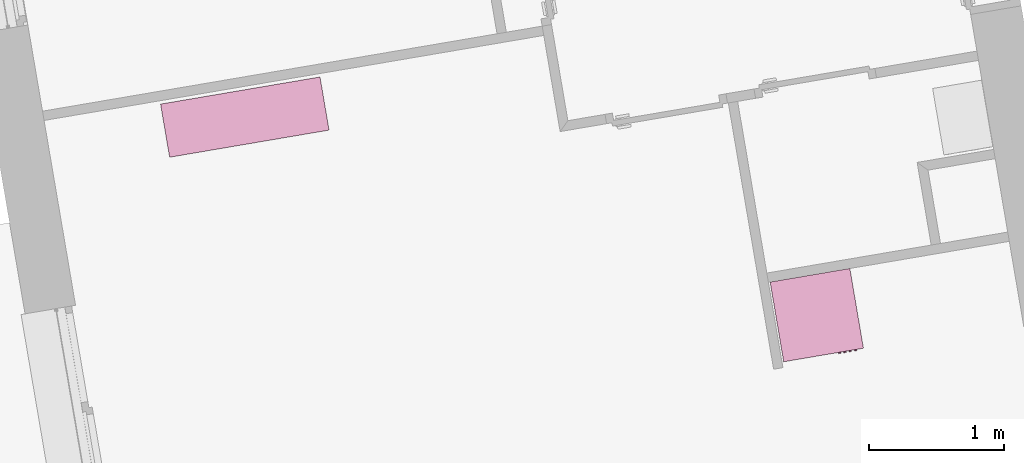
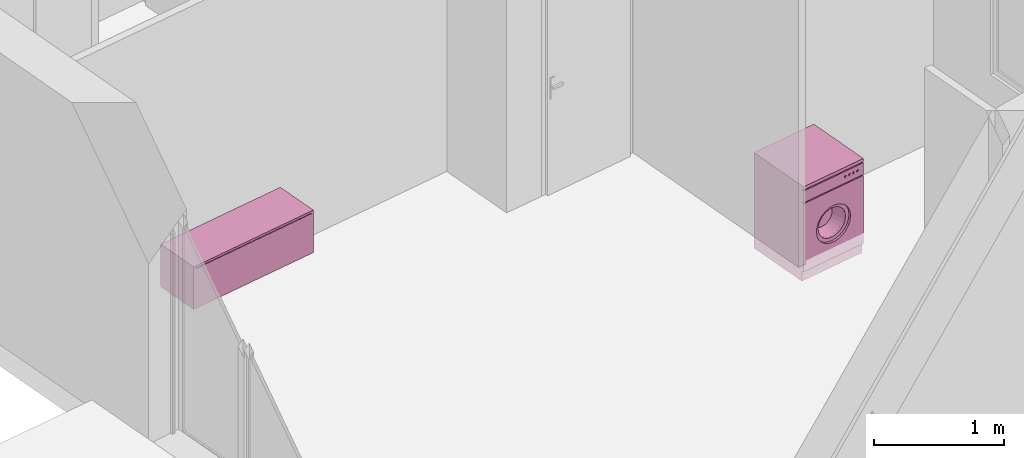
# One storey, part 164 of 195: 2 furnishings.
"""IFC2X3 building model written with IfcOpenShell, lengths in metres."""

from ifc_helpers import new_model, entity, si_unit, converted_unit, derived_unit, money_unit, direction, frame, origin_with_axes, place, context, subcontext, project, spatial, open_shell, faceted_brep, surface_model, source, transform, mapped, type_object, element, save


model = new_model("IFC2X3")

# Units and contexts
model_context = context("Model", 3, precision=1e-05, world=origin_with_axes(), true_north=direction((0.0, 1.0)))
body_context = subcontext(model_context, "Body", "Model", "MODEL_VIEW")
ifc_project = project(units=[si_unit("LENGTHUNIT", "METRE"), si_unit("AREAUNIT", "SQUARE_METRE"), si_unit("VOLUMEUNIT", "CUBIC_METRE"), converted_unit("PLANEANGLEUNIT", "DEGREE", entity("IfcPlaneAngleMeasure", 0.0174532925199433), si_unit("PLANEANGLEUNIT", "RADIAN"), dimensions=[0, 0, 0, 0, 0, 0, 0]), money_unit("CHF"), converted_unit("TIMEUNIT", "Year", entity("IfcTimeMeasure", 31557600.0), si_unit("TIMEUNIT", "SECOND"), dimensions=[0, 0, 1, 0, 0, 0, 0]), si_unit("MASSUNIT", "GRAM", prefix="KILO"), si_unit("THERMODYNAMICTEMPERATUREUNIT", "DEGREE_CELSIUS"), si_unit("LUMINOUSINTENSITYUNIT", "LUMEN"), si_unit("ENERGYUNIT", "JOULE", prefix="MEGA"), derived_unit("THERMALCONDUCTANCEUNIT", [(si_unit("POWERUNIT", "WATT"), 1), (si_unit("LENGTHUNIT", "METRE"), -1), (si_unit("THERMODYNAMICTEMPERATUREUNIT", "KELVIN"), -1)]), derived_unit("SPECIFICHEATCAPACITYUNIT", [(si_unit("ENERGYUNIT", "JOULE"), 1), (si_unit("MASSUNIT", "GRAM", prefix="KILO"), -1), (si_unit("THERMODYNAMICTEMPERATUREUNIT", "KELVIN"), -1)]), derived_unit("MASSDENSITYUNIT", [(si_unit("MASSUNIT", "GRAM", prefix="KILO"), 1), (si_unit("VOLUMEUNIT", "CUBIC_METRE"), -1)])], contexts=[model_context])

# Site, building, storey
site_placement = place(None, origin_with_axes())
site = spatial("IfcSite", under=ifc_project, at=site_placement, Name="Site", CompositionType="ELEMENT")
building_placement = place(site_placement, origin_with_axes())
building = spatial("IfcBuilding", under=site, at=building_placement, Name="Bâtiment", CompositionType="ELEMENT")
storey_placement = place(building_placement, origin_with_axes())
storey = spatial("IfcBuildingStorey", under=building, at=storey_placement, Name="rdc", CompositionType="ELEMENT", Elevation=0.0)

# Furnishings
furnishing_element_type_1 = type_object("IfcFurnishingElementType", Name="Meuble à plans 27")
shared_shape_1 = source(origin_with_axes(), body_context, "Body", "SurfaceModel", [
    surface_model("IfcShellBasedSurfaceModel", [(-1.18, 0.02, 0.0), (-1.18, 0.4, 0.0), (-0.02, 0.4, 0.0), (-0.02, 0.02, 0.0)], [open_shell([[[0, 1, 2, 3]]])]),
    faceted_brep([(0.0, 0.4, 0.0), (0.0, 0.0, 0.0), (-1.2, 0.0, 0.0), (-1.2, 0.4, 0.0), (0.0, 0.4, 0.4), (0.0, 0.0, 0.4), (-1.2, 0.0, 0.4), (-0.02, 0.0, 0.02), (-1.18, 0.0, 0.02), (-1.18, 0.0, 0.38), (-0.02, 0.0, 0.38), (-1.2, 0.4, 0.4), (-0.02, 0.4, 0.01999999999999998), (-0.02, 0.4, 0.38), (-1.18, 0.4, 0.38), (-1.18, 0.4, 0.01999999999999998)], [[[0, 1, 2, 3]], [[4, 5, 1, 0]], [[1, 5, 6, 2], [7, 8, 9, 10]], [[3, 2, 6, 11]], [[0, 3, 11, 4], [12, 13, 14, 15]], [[11, 6, 5, 4]], [[15, 8, 7, 12]], [[14, 9, 8, 15]], [[13, 10, 9, 14]], [[12, 7, 10, 13]]]),
    faceted_brep([(-1.18, 0.4, 0.01999999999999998), (-1.18, 0.4, 0.38), (-0.02, 0.4, 0.38), (-0.02, 0.4, 0.01999999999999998), (-1.18, 0.38, 0.01999999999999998), (-1.18, 0.3800000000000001, 0.38), (-0.02, 0.3800000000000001, 0.38), (-0.02, 0.38, 0.01999999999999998)], [[[0, 1, 2, 3]], [[0, 4, 5, 1]], [[1, 5, 6, 2]], [[2, 6, 7, 3]], [[3, 7, 4, 0]], [[7, 6, 5, 4]]]),
    faceted_brep([(-1.18, 0.0, 0.02), (-1.18, 0.38, 0.02), (-0.02, 0.38, 0.02), (-0.02, 0.0, 0.02), (-1.18, 0.0, 0.3750000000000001), (-1.18, 0.38, 0.3750000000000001), (-0.02, 0.38, 0.3750000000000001), (-0.02, 0.0, 0.3750000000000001)], [[[0, 1, 2, 3]], [[0, 4, 5, 1]], [[1, 5, 6, 2]], [[2, 6, 7, 3]], [[3, 7, 4, 0]], [[7, 6, 5, 4]]]),
])
furnishing_1_placement = place(storey_placement, frame((9583.496544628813, -1029.957044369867, 57.92018680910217), z_axis=(0.0, 0.0, 1.0), x_axis=(0.9858290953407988, 0.1677527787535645, 0.0)))
element("IfcFurnishingElement", 1, at=furnishing_1_placement, inside=storey, type_object=furnishing_element_type_1, Name="Obj.-376", context=body_context, shape_type="MappedRepresentation", body=[
    mapped(shared_shape_1, transform((0.0, 0.0, 0.0))),
])
furnishing_element_type_2 = type_object("IfcFurnishingElementType", Name="Machine à laver")
shared_shape_2 = source(origin_with_axes(), body_context, "Body", "SurfaceModel", [
    faceted_brep([(0.0, 0.02, 0.1), (0.0, 0.0, 0.1), (-0.6, 0.0, 0.1), (-0.6, 0.02, 0.1), (0.0, 0.02000000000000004, 0.74), (0.0, 0.0, 0.74), (-0.6, 0.0, 0.74), (-0.4714285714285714, 0.0, 0.42), (-0.4655872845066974, 0.0, 0.4643689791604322), (-0.448461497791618, 0.0, 0.5057142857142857), (-0.4212183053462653, 0.0, 0.5412183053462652), (-0.3857142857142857, 0.0, 0.568461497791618), (-0.3443689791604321, 0.0, 0.5855872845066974), (-0.3, 0.0, 0.5914285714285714), (-0.2556310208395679, 0.0, 0.5855872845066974), (-0.2142857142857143, 0.0, 0.5684614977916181), (-0.1787816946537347, 0.0, 0.5412183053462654), (-0.1515385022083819, 0.0, 0.5057142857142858), (-0.1344127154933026, 0.0, 0.4643689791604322), (-0.1285714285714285, 0.0, 0.42), (-0.1344127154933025, 0.0, 0.3756310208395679), (-0.1515385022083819, 0.0, 0.3342857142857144), (-0.1787816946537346, 0.0, 0.2987816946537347), (-0.2142857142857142, 0.0, 0.2715385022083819), (-0.2556310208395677, 0.0, 0.2544127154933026), (-0.2999999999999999, 0.0, 0.2485714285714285), (-0.344368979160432, 0.0, 0.2544127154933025), (-0.3857142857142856, 0.0, 0.2715385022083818), (-0.4212183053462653, 0.0, 0.2987816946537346), (-0.448461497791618, 0.0, 0.3342857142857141), (-0.4655872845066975, 0.0, 0.3756310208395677), (-0.6, 0.02000000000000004, 0.74), (-0.4714285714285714, 0.02000000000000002, 0.42), (-0.4655872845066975, 0.02000000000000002, 0.3756310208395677), (-0.448461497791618, 0.02000000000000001, 0.3342857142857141), (-0.4212183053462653, 0.02000000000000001, 0.2987816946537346), (-0.3857142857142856, 0.02000000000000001, 0.2715385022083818), (-0.344368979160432, 0.02000000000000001, 0.2544127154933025), (-0.2999999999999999, 0.02000000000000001, 0.2485714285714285), (-0.2556310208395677, 0.02000000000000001, 0.2544127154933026), (-0.2142857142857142, 0.02000000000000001, 0.2715385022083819), (-0.1787816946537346, 0.02000000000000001, 0.2987816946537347), (-0.1515385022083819, 0.02000000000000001, 0.3342857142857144), (-0.1344127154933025, 0.02000000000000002, 0.3756310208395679), (-0.1285714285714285, 0.02000000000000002, 0.42), (-0.1344127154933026, 0.02000000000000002, 0.4643689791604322), (-0.1515385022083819, 0.02000000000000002, 0.5057142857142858), (-0.1787816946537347, 0.02000000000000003, 0.5412183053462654), (-0.2142857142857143, 0.02000000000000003, 0.5684614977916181), (-0.2556310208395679, 0.02000000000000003, 0.5855872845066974), (-0.3, 0.02000000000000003, 0.5914285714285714), (-0.3443689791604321, 0.02000000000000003, 0.5855872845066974), (-0.3857142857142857, 0.02000000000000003, 0.568461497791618), (-0.4212183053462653, 0.02000000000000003, 0.5412183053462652), (-0.448461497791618, 0.02000000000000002, 0.5057142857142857), (-0.4655872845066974, 0.02000000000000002, 0.4643689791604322)], [[[0, 1, 2, 3]], [[4, 5, 1, 0]], [[1, 5, 6, 2], [7, 8, 9, 10, 11, 12, 13, 14, 15, 16, 17, 18, 19, 20, 21, 22, 23, 24, 25, 26, 27, 28, 29, 30]], [[3, 2, 6, 31]], [[0, 3, 31, 4], [32, 33, 34, 35, 36, 37, 38, 39, 40, 41, 42, 43, 44, 45, 46, 47, 48, 49, 50, 51, 52, 53, 54, 55]], [[31, 6, 5, 4]], [[55, 8, 7, 32]], [[54, 9, 8, 55]], [[53, 10, 9, 54]], [[52, 11, 10, 53]], [[51, 12, 11, 52]], [[50, 13, 12, 51]], [[49, 14, 13, 50]], [[48, 15, 14, 49]], [[47, 16, 15, 48]], [[46, 17, 16, 47]], [[45, 18, 17, 46]], [[44, 19, 18, 45]], [[43, 20, 19, 44]], [[42, 21, 20, 43]], [[41, 22, 21, 42]], [[40, 23, 22, 41]], [[39, 24, 23, 40]], [[38, 25, 24, 39]], [[37, 26, 25, 38]], [[36, 27, 26, 37]], [[35, 28, 27, 36]], [[34, 29, 28, 35]], [[33, 30, 29, 34]], [[32, 7, 30, 33]]]),
    faceted_brep([(-0.4714285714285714, 0.04000000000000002, 0.42), (-0.4714285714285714, 0.02000000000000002, 0.42), (-0.4655872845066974, 0.02000000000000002, 0.4643689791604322), (-0.4655872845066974, 0.04000000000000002, 0.4643689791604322), (-0.4655872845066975, 0.04000000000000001, 0.3756310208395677), (-0.4655872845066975, 0.02000000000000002, 0.3756310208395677), (-0.448461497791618, 0.02000000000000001, 0.3342857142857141), (-0.4212183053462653, 0.02000000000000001, 0.2987816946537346), (-0.3857142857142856, 0.02000000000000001, 0.2715385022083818), (-0.344368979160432, 0.02000000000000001, 0.2544127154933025), (-0.2999999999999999, 0.02000000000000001, 0.2485714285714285), (-0.2556310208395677, 0.02000000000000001, 0.2544127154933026), (-0.2142857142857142, 0.02000000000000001, 0.2715385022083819), (-0.1787816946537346, 0.02000000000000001, 0.2987816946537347), (-0.1515385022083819, 0.02000000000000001, 0.3342857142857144), (-0.1344127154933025, 0.02000000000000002, 0.3756310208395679), (-0.1285714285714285, 0.02000000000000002, 0.42), (-0.1344127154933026, 0.02000000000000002, 0.4643689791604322), (-0.1515385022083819, 0.02000000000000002, 0.5057142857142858), (-0.1787816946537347, 0.02000000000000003, 0.5412183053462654), (-0.2142857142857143, 0.02000000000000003, 0.5684614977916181), (-0.2556310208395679, 0.02000000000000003, 0.5855872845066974), (-0.3, 0.02000000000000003, 0.5914285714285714), (-0.3443689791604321, 0.02000000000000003, 0.5855872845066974), (-0.3857142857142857, 0.02000000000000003, 0.568461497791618), (-0.4212183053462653, 0.02000000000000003, 0.5412183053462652), (-0.448461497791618, 0.02000000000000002, 0.5057142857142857), (-0.4371428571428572, 0.02000000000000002, 0.42), (-0.432469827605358, 0.02000000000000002, 0.4554951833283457), (-0.4187691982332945, 0.02000000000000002, 0.4885714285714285), (-0.3969746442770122, 0.02000000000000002, 0.5169746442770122), (-0.3685714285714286, 0.02000000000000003, 0.5387691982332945), (-0.3354951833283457, 0.02000000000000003, 0.552469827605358), (-0.3, 0.02000000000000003, 0.5571428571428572), (-0.2645048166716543, 0.02000000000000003, 0.552469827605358), (-0.2314285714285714, 0.02000000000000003, 0.5387691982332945), (-0.2030253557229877, 0.02000000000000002, 0.5169746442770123), (-0.1812308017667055, 0.02000000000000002, 0.4885714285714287), (-0.167530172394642, 0.02000000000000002, 0.4554951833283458), (-0.1628571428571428, 0.02000000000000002, 0.42), (-0.167530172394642, 0.02000000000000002, 0.3845048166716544), (-0.1812308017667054, 0.02000000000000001, 0.3514285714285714), (-0.2030253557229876, 0.02000000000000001, 0.3230253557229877), (-0.2314285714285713, 0.02000000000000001, 0.3012308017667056), (-0.2645048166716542, 0.02000000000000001, 0.287530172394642), (-0.2999999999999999, 0.02000000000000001, 0.2828571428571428), (-0.3354951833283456, 0.02000000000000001, 0.287530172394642), (-0.3685714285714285, 0.02000000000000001, 0.3012308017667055), (-0.3969746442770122, 0.02000000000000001, 0.3230253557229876), (-0.4187691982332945, 0.02000000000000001, 0.3514285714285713), (-0.432469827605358, 0.02000000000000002, 0.3845048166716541), (-0.448461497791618, 0.04000000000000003, 0.5057142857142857), (-0.4212183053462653, 0.04000000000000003, 0.5412183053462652), (-0.3857142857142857, 0.04000000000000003, 0.568461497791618), (-0.3443689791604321, 0.04000000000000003, 0.5855872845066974), (-0.3, 0.04000000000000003, 0.5914285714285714), (-0.2556310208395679, 0.04000000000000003, 0.5855872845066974), (-0.2142857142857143, 0.04000000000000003, 0.5684614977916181), (-0.1787816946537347, 0.04000000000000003, 0.5412183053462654), (-0.1515385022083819, 0.04000000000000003, 0.5057142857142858), (-0.1344127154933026, 0.04000000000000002, 0.4643689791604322), (-0.1285714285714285, 0.04000000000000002, 0.42), (-0.1344127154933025, 0.04000000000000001, 0.3756310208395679), (-0.1515385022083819, 0.04000000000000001, 0.3342857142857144), (-0.1787816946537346, 0.04000000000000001, 0.2987816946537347), (-0.2142857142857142, 0.04000000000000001, 0.2715385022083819), (-0.2556310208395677, 0.04000000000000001, 0.2544127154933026), (-0.2999999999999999, 0.04000000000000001, 0.2485714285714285), (-0.344368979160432, 0.04000000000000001, 0.2544127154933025), (-0.3857142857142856, 0.04000000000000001, 0.2715385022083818), (-0.4212183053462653, 0.04000000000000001, 0.2987816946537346), (-0.448461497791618, 0.04000000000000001, 0.3342857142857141), (-0.4371428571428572, 0.04000000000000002, 0.42), (-0.432469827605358, 0.04000000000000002, 0.3845048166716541), (-0.4187691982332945, 0.04000000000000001, 0.3514285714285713), (-0.3969746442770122, 0.04000000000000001, 0.3230253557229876), (-0.3685714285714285, 0.04000000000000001, 0.3012308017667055), (-0.3354951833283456, 0.04000000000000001, 0.287530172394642), (-0.2999999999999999, 0.04000000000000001, 0.2828571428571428), (-0.2645048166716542, 0.04000000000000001, 0.287530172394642), (-0.2314285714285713, 0.04000000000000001, 0.3012308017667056), (-0.2030253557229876, 0.04000000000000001, 0.3230253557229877), (-0.1812308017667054, 0.04000000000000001, 0.3514285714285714), (-0.167530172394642, 0.04000000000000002, 0.3845048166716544), (-0.1628571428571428, 0.04000000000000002, 0.42), (-0.167530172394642, 0.04000000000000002, 0.4554951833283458), (-0.1812308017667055, 0.04000000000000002, 0.4885714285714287), (-0.2030253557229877, 0.04000000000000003, 0.5169746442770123), (-0.2314285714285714, 0.04000000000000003, 0.5387691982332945), (-0.2645048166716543, 0.04000000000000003, 0.552469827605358), (-0.3, 0.04000000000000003, 0.5571428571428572), (-0.3354951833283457, 0.04000000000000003, 0.552469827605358), (-0.3685714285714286, 0.04000000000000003, 0.5387691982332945), (-0.3969746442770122, 0.04000000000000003, 0.5169746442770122), (-0.4187691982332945, 0.04000000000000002, 0.4885714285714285), (-0.432469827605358, 0.04000000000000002, 0.4554951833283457)], [[[0, 1, 2, 3]], [[4, 5, 1, 0]], [[1, 5, 6, 7, 8, 9, 10, 11, 12, 13, 14, 15, 16, 17, 18, 19, 20, 21, 22, 23, 24, 25, 26, 2], [27, 28, 29, 30, 31, 32, 33, 34, 35, 36, 37, 38, 39, 40, 41, 42, 43, 44, 45, 46, 47, 48, 49, 50]], [[3, 2, 26, 51]], [[0, 3, 51, 52, 53, 54, 55, 56, 57, 58, 59, 60, 61, 62, 63, 64, 65, 66, 67, 68, 69, 70, 71, 4], [72, 73, 74, 75, 76, 77, 78, 79, 80, 81, 82, 83, 84, 85, 86, 87, 88, 89, 90, 91, 92, 93, 94, 95]], [[71, 6, 5, 4]], [[70, 7, 6, 71]], [[69, 8, 7, 70]], [[68, 9, 8, 69]], [[67, 10, 9, 68]], [[66, 11, 10, 67]], [[65, 12, 11, 66]], [[64, 13, 12, 65]], [[63, 14, 13, 64]], [[62, 15, 14, 63]], [[61, 16, 15, 62]], [[60, 17, 16, 61]], [[59, 18, 17, 60]], [[58, 19, 18, 59]], [[57, 20, 19, 58]], [[56, 21, 20, 57]], [[55, 22, 21, 56]], [[54, 23, 22, 55]], [[53, 24, 23, 54]], [[52, 25, 24, 53]], [[51, 26, 25, 52]], [[95, 28, 27, 72]], [[94, 29, 28, 95]], [[93, 30, 29, 94]], [[92, 31, 30, 93]], [[91, 32, 31, 92]], [[90, 33, 32, 91]], [[89, 34, 33, 90]], [[88, 35, 34, 89]], [[87, 36, 35, 88]], [[86, 37, 36, 87]], [[85, 38, 37, 86]], [[84, 39, 38, 85]], [[83, 40, 39, 84]], [[82, 41, 40, 83]], [[81, 42, 41, 82]], [[80, 43, 42, 81]], [[79, 44, 43, 80]], [[78, 45, 44, 79]], [[77, 46, 45, 78]], [[76, 47, 46, 77]], [[75, 48, 47, 76]], [[74, 49, 48, 75]], [[73, 50, 49, 74]], [[72, 27, 50, 73]]]),
    surface_model("IfcShellBasedSurfaceModel", [(-0.2645048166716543, 0.03999999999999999, 0.552469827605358), (-0.2733786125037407, 0.14, 0.5193523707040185), (-0.3, 0.14, 0.5228571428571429), (-0.3, 0.03999999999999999, 0.5571428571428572), (-0.2314285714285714, 0.03999999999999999, 0.5387691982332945), (-0.2485714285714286, 0.14, 0.5090768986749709), (-0.2272690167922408, 0.14, 0.4927309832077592), (-0.2109231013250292, 0.14, 0.4714285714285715), (-0.2006476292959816, 0.14, 0.4466213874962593), (-0.1971428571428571, 0.14, 0.4200000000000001), (-0.2006476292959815, 0.14, 0.3933786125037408), (-0.2109231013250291, 0.14, 0.3685714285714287), (-0.2272690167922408, 0.14, 0.3472690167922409), (-0.2485714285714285, 0.14, 0.3309231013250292), (-0.2733786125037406, 0.14, 0.3206476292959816), (-0.2999999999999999, 0.14, 0.3171428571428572), (-0.3266213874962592, 0.14, 0.3206476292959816), (-0.3514285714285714, 0.14, 0.3309231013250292), (-0.3727309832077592, 0.14, 0.3472690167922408), (-0.3890768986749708, 0.14, 0.3685714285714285), (-0.3993523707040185, 0.14, 0.3933786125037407), (-0.4028571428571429, 0.14, 0.42), (-0.3993523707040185, 0.14, 0.4466213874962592), (-0.3890768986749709, 0.14, 0.4714285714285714), (-0.3727309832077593, 0.14, 0.4927309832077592), (-0.3514285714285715, 0.14, 0.5090768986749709), (-0.3266213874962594, 0.14, 0.5193523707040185), (-0.3354951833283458, 0.03999999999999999, 0.552469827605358), (-0.2030253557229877, 0.03999999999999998, 0.5169746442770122), (-0.1812308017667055, 0.03999999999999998, 0.4885714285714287), (-0.167530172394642, 0.03999999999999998, 0.4554951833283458), (-0.1628571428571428, 0.03999999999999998, 0.4200000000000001), (-0.167530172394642, 0.03999999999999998, 0.3845048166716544), (-0.1812308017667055, 0.03999999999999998, 0.3514285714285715), (-0.2030253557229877, 0.03999999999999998, 0.3230253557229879), (-0.2314285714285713, 0.03999999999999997, 0.3012308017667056), (-0.2645048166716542, 0.03999999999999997, 0.2875301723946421), (-0.2999999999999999, 0.03999999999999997, 0.2828571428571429), (-0.3354951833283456, 0.03999999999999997, 0.2875301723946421), (-0.3685714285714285, 0.03999999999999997, 0.3012308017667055), (-0.3969746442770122, 0.03999999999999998, 0.3230253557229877), (-0.4187691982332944, 0.03999999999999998, 0.3514285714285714), (-0.432469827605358, 0.03999999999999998, 0.3845048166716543), (-0.4371428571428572, 0.03999999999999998, 0.4199999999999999), (-0.432469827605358, 0.03999999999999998, 0.4554951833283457), (-0.4187691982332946, 0.03999999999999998, 0.4885714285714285), (-0.3969746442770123, 0.03999999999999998, 0.5169746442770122), (-0.3685714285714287, 0.03999999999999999, 0.5387691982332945)], [open_shell([[[0, 1, 2, 3]], [[4, 5, 1, 0]], [[2, 1, 5, 6, 7, 8, 9, 10, 11, 12, 13, 14, 15, 16, 17, 18, 19, 20, 21, 22, 23, 24, 25, 26]], [[3, 2, 26, 27]], [[28, 6, 5, 4]], [[29, 7, 6, 28]], [[30, 8, 7, 29]], [[31, 9, 8, 30]], [[32, 10, 9, 31]], [[33, 11, 10, 32]], [[34, 12, 11, 33]], [[35, 13, 12, 34]], [[36, 14, 13, 35]], [[37, 15, 14, 36]], [[38, 16, 15, 37]], [[39, 17, 16, 38]], [[40, 18, 17, 39]], [[41, 19, 18, 40]], [[42, 20, 19, 41]], [[43, 21, 20, 42]], [[44, 22, 21, 43]], [[45, 23, 22, 44]], [[46, 24, 23, 45]], [[47, 25, 24, 46]], [[27, 26, 25, 47]]])]),
    surface_model("IfcShellBasedSurfaceModel", [(0.0, 0.02, 0.1), (0.0, 0.6, 0.09999999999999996), (0.0, 0.6, 0.87), (0.0, 0.02000000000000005, 0.87)], [open_shell([[[0, 1, 2, 3]]])]),
    surface_model("IfcShellBasedSurfaceModel", [(-0.6, 0.01999999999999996, 0.1), (-0.6, 0.5999999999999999, 0.09999999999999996), (-0.6, 0.5999999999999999, 0.87), (-0.6, 0.02000000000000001, 0.87)], [open_shell([[[0, 1, 2, 3]]])]),
    surface_model("IfcShellBasedSurfaceModel", [(0.0, 0.6, 0.1), (-0.6, 0.6, 0.1), (-0.6, 0.6, 0.87), (0.0, 0.6, 0.87)], [open_shell([[[0, 1, 2, 3]]])]),
    faceted_brep([(0.0, 0.02, 0.0), (0.0, 0.02, 0.1), (-0.6, 0.02, 0.1), (-0.6, 0.02, 0.0), (0.0, 0.6, 0.0), (0.0, 0.6, 0.1), (-0.6, 0.6, 0.1), (-0.6, 0.6, 0.0)], [[[0, 1, 2, 3]], [[4, 5, 1, 0]], [[1, 5, 6, 2]], [[3, 2, 6, 7]], [[0, 3, 7, 4]], [[7, 6, 5, 4]]]),
    faceted_brep([(0.0, 0.02, 0.75), (0.0, 0.0, 0.75), (-0.6, 0.0, 0.75), (-0.6, 0.02, 0.75), (0.0, 0.02000000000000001, 0.86), (0.0, 0.0, 0.86), (-0.6, 0.0, 0.86), (-0.6, 0.02000000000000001, 0.86)], [[[0, 1, 2, 3]], [[4, 5, 1, 0]], [[1, 5, 6, 2]], [[3, 2, 6, 7]], [[0, 3, 7, 4]], [[7, 6, 5, 4]]]),
    surface_model("IfcShellBasedSurfaceModel", [(0.0, 0.02, 0.74), (-0.6, 0.02, 0.74), (-0.6, 0.02000000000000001, 0.87), (0.0, 0.02000000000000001, 0.87)], [open_shell([[[0, 1, 2, 3]]])]),
    faceted_brep([(0.0, 0.0, 0.87), (0.0, 0.0, 0.9), (-0.6, 0.0, 0.9), (-0.6, 0.0, 0.87), (0.0, 0.6, 0.87), (0.0, 0.6, 0.9), (-0.6, 0.6, 0.9), (-0.6, 0.6, 0.87)], [[[0, 1, 2, 3]], [[4, 5, 1, 0]], [[1, 5, 6, 2]], [[3, 2, 6, 7]], [[0, 3, 7, 4]], [[7, 6, 5, 4]]]),
    faceted_brep([(-0.06866025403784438, 0.0, 0.8049999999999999), (-0.06999999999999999, 0.0, 0.8099999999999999), (-0.06866025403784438, 0.0, 0.815), (-0.065, 0.0, 0.8186602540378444), (-0.06, 0.0, 0.82), (-0.055, 0.0, 0.8186602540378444), (-0.05133974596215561, 0.0, 0.815), (-0.05, 0.0, 0.8099999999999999), (-0.05133974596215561, 0.0, 0.8049999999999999), (-0.05499999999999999, 0.0, 0.8013397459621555), (-0.05999999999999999, 0.0, 0.7999999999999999), (-0.06499999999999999, 0.0, 0.8013397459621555), (-0.06866025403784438, -0.01, 0.8049999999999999), (-0.06999999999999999, -0.01, 0.8099999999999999), (-0.06866025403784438, -0.01, 0.815), (-0.065, -0.01, 0.8186602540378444), (-0.06, -0.01, 0.82), (-0.055, -0.01, 0.8186602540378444), (-0.05133974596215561, -0.01, 0.815), (-0.05, -0.01, 0.8099999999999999), (-0.05133974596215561, -0.01, 0.8049999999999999), (-0.05499999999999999, -0.01, 0.8013397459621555), (-0.05999999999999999, -0.01, 0.7999999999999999), (-0.06499999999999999, -0.01, 0.8013397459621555)], [[[0, 1, 2, 3, 4, 5, 6, 7, 8, 9, 10, 11]], [[0, 12, 13, 1]], [[1, 13, 14, 2]], [[2, 14, 15, 3]], [[3, 15, 16, 4]], [[4, 16, 17, 5]], [[5, 17, 18, 6]], [[6, 18, 19, 7]], [[7, 19, 20, 8]], [[8, 20, 21, 9]], [[9, 21, 22, 10]], [[10, 22, 23, 11]], [[11, 23, 12, 0]], [[12, 23, 22, 21, 20, 19, 18, 17, 16, 15, 14, 13]]]),
    faceted_brep([(-0.1086602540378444, 0.0, 0.8049999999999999), (-0.11, 0.0, 0.8099999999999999), (-0.1086602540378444, 0.0, 0.815), (-0.105, 0.0, 0.8186602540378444), (-0.1, 0.0, 0.82), (-0.095, 0.0, 0.8186602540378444), (-0.09133974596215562, 0.0, 0.815), (-0.09000000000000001, 0.0, 0.8099999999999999), (-0.09133974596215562, 0.0, 0.8049999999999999), (-0.095, 0.0, 0.8013397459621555), (-0.09999999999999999, 0.0, 0.7999999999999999), (-0.105, 0.0, 0.8013397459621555), (-0.1086602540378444, -0.01, 0.8049999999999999), (-0.11, -0.01, 0.8099999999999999), (-0.1086602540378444, -0.01, 0.815), (-0.105, -0.01, 0.8186602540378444), (-0.1, -0.01, 0.82), (-0.095, -0.01, 0.8186602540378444), (-0.09133974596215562, -0.01, 0.815), (-0.09000000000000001, -0.01, 0.8099999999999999), (-0.09133974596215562, -0.01, 0.8049999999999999), (-0.095, -0.01, 0.8013397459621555), (-0.09999999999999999, -0.01, 0.7999999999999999), (-0.105, -0.01, 0.8013397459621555)], [[[0, 1, 2, 3, 4, 5, 6, 7, 8, 9, 10, 11]], [[0, 12, 13, 1]], [[1, 13, 14, 2]], [[2, 14, 15, 3]], [[3, 15, 16, 4]], [[4, 16, 17, 5]], [[5, 17, 18, 6]], [[6, 18, 19, 7]], [[7, 19, 20, 8]], [[8, 20, 21, 9]], [[9, 21, 22, 10]], [[10, 22, 23, 11]], [[11, 23, 12, 0]], [[12, 23, 22, 21, 20, 19, 18, 17, 16, 15, 14, 13]]]),
    faceted_brep([(-0.1486602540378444, 0.0, 0.8049999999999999), (-0.15, 0.0, 0.8099999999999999), (-0.1486602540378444, 0.0, 0.815), (-0.145, 0.0, 0.8186602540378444), (-0.14, 0.0, 0.82), (-0.135, 0.0, 0.8186602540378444), (-0.1313397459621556, 0.0, 0.815), (-0.13, 0.0, 0.8099999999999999), (-0.1313397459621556, 0.0, 0.8049999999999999), (-0.135, 0.0, 0.8013397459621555), (-0.14, 0.0, 0.7999999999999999), (-0.145, 0.0, 0.8013397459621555), (-0.1486602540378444, -0.01, 0.8049999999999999), (-0.15, -0.01, 0.8099999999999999), (-0.1486602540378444, -0.01, 0.815), (-0.145, -0.01, 0.8186602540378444), (-0.14, -0.01, 0.82), (-0.135, -0.01, 0.8186602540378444), (-0.1313397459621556, -0.01, 0.815), (-0.13, -0.01, 0.8099999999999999), (-0.1313397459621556, -0.01, 0.8049999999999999), (-0.135, -0.01, 0.8013397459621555), (-0.14, -0.01, 0.7999999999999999), (-0.145, -0.01, 0.8013397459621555)], [[[0, 1, 2, 3, 4, 5, 6, 7, 8, 9, 10, 11]], [[0, 12, 13, 1]], [[1, 13, 14, 2]], [[2, 14, 15, 3]], [[3, 15, 16, 4]], [[4, 16, 17, 5]], [[5, 17, 18, 6]], [[6, 18, 19, 7]], [[7, 19, 20, 8]], [[8, 20, 21, 9]], [[9, 21, 22, 10]], [[10, 22, 23, 11]], [[11, 23, 12, 0]], [[12, 23, 22, 21, 20, 19, 18, 17, 16, 15, 14, 13]]]),
    faceted_brep([(-0.1886602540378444, 0.0, 0.8049999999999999), (-0.19, 0.0, 0.8099999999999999), (-0.1886602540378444, 0.0, 0.815), (-0.185, 0.0, 0.8186602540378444), (-0.18, 0.0, 0.82), (-0.175, 0.0, 0.8186602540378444), (-0.1713397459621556, 0.0, 0.815), (-0.17, 0.0, 0.8099999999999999), (-0.1713397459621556, 0.0, 0.8049999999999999), (-0.175, 0.0, 0.8013397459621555), (-0.18, 0.0, 0.7999999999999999), (-0.185, 0.0, 0.8013397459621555), (-0.1886602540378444, -0.01, 0.8049999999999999), (-0.19, -0.01, 0.8099999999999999), (-0.1886602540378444, -0.01, 0.815), (-0.185, -0.01, 0.8186602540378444), (-0.18, -0.01, 0.82), (-0.175, -0.01, 0.8186602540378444), (-0.1713397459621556, -0.01, 0.815), (-0.17, -0.01, 0.8099999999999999), (-0.1713397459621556, -0.01, 0.8049999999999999), (-0.175, -0.01, 0.8013397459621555), (-0.18, -0.01, 0.7999999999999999), (-0.185, -0.01, 0.8013397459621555)], [[[0, 1, 2, 3, 4, 5, 6, 7, 8, 9, 10, 11]], [[0, 12, 13, 1]], [[1, 13, 14, 2]], [[2, 14, 15, 3]], [[3, 15, 16, 4]], [[4, 16, 17, 5]], [[5, 17, 18, 6]], [[6, 18, 19, 7]], [[7, 19, 20, 8]], [[8, 20, 21, 9]], [[9, 21, 22, 10]], [[10, 22, 23, 11]], [[11, 23, 12, 0]], [[12, 23, 22, 21, 20, 19, 18, 17, 16, 15, 14, 13]]]),
])
furnishing_2_placement = place(storey_placement, frame((9587.4616114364, -1031.575374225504, 57.49999999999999), z_axis=(0.0, 0.0, 1.0), x_axis=(0.9858290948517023, 0.167752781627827, 0.0)))
element("IfcFurnishingElement", 2, at=furnishing_2_placement, inside=storey, type_object=furnishing_element_type_2, Name="Obj.-019", context=body_context, shape_type="MappedRepresentation", body=[
    mapped(shared_shape_2, transform((0.0, 0.0, 0.0))),
])

save(model, "model.ifc")
